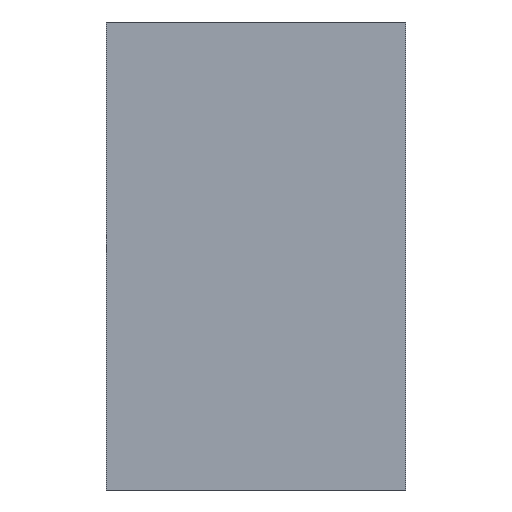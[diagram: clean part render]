
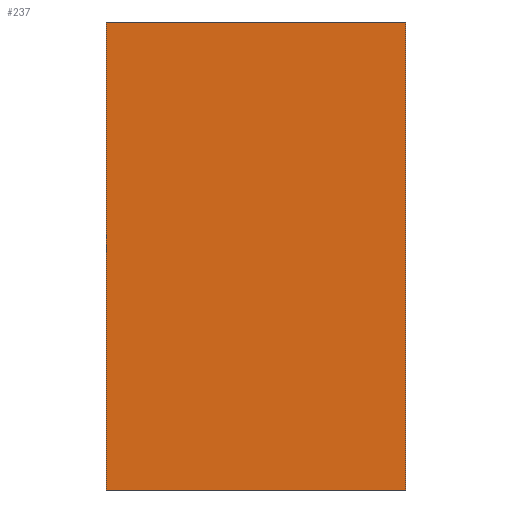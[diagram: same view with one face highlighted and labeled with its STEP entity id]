
A CAD part, front view. The second image highlights one B-rep face of the part: STEP entity #237.
In plain terms, the highlighted planar face has unit normal (0, -1, 0).
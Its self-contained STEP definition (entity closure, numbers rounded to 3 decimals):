
#21 = EDGE_CURVE('',#22,#24,#26,.T.);
#22 = VERTEX_POINT('',#23);
#23 = CARTESIAN_POINT('',(15.,4.,18.));
#24 = VERTEX_POINT('',#25);
#25 = CARTESIAN_POINT('',(15.,4.,68.));
#26 = SURFACE_CURVE('',#27,(#31,#43),.PCURVE_S1.);
#27 = LINE('',#28,#29);
#28 = CARTESIAN_POINT('',(15.,4.,18.));
#29 = VECTOR('',#30,1.);
#30 = DIRECTION('',(0.,0.,1.));
#31 = PCURVE('',#32,#37);
#32 = PLANE('',#33);
#33 = AXIS2_PLACEMENT_3D('',#34,#35,#36);
#34 = CARTESIAN_POINT('',(15.,4.,18.));
#35 = DIRECTION('',(1.,0.,0.));
#36 = DIRECTION('',(0.,0.,1.));
#37 = DEFINITIONAL_REPRESENTATION('',(#38),#42);
#38 = LINE('',#39,#40);
#39 = CARTESIAN_POINT('',(0.,0.));
#40 = VECTOR('',#41,1.);
#41 = DIRECTION('',(1.,0.));
#42 = ( GEOMETRIC_REPRESENTATION_CONTEXT(2) 
PARAMETRIC_REPRESENTATION_CONTEXT() REPRESENTATION_CONTEXT('2D SPACE',''
  ) );
#43 = PCURVE('',#44,#49);
#44 = PLANE('',#45);
#45 = AXIS2_PLACEMENT_3D('',#46,#47,#48);
#46 = CARTESIAN_POINT('',(15.,4.,18.));
#47 = DIRECTION('',(0.,1.,0.));
#48 = DIRECTION('',(0.,0.,1.));
#49 = DEFINITIONAL_REPRESENTATION('',(#50),#54);
#50 = LINE('',#51,#52);
#51 = CARTESIAN_POINT('',(0.,0.));
#52 = VECTOR('',#53,1.);
#53 = DIRECTION('',(1.,0.));
#54 = ( GEOMETRIC_REPRESENTATION_CONTEXT(2) 
PARAMETRIC_REPRESENTATION_CONTEXT() REPRESENTATION_CONTEXT('2D SPACE',''
  ) );
#72 = PLANE('',#73);
#73 = AXIS2_PLACEMENT_3D('',#74,#75,#76);
#74 = CARTESIAN_POINT('',(15.,4.,18.));
#75 = DIRECTION('',(0.,0.,1.));
#76 = DIRECTION('',(1.,0.,0.));
#126 = PLANE('',#127);
#127 = AXIS2_PLACEMENT_3D('',#128,#129,#130);
#128 = CARTESIAN_POINT('',(15.,4.,68.));
#129 = DIRECTION('',(0.,0.,1.));
#130 = DIRECTION('',(1.,0.,0.));
#141 = EDGE_CURVE('',#142,#144,#146,.T.);
#142 = VERTEX_POINT('',#143);
#143 = CARTESIAN_POINT('',(47.,4.,18.));
#144 = VERTEX_POINT('',#145);
#145 = CARTESIAN_POINT('',(47.,4.,68.));
#146 = SURFACE_CURVE('',#147,(#151,#163),.PCURVE_S1.);
#147 = LINE('',#148,#149);
#148 = CARTESIAN_POINT('',(47.,4.,18.));
#149 = VECTOR('',#150,1.);
#150 = DIRECTION('',(0.,0.,1.));
#151 = PCURVE('',#152,#157);
#152 = PLANE('',#153);
#153 = AXIS2_PLACEMENT_3D('',#154,#155,#156);
#154 = CARTESIAN_POINT('',(47.,4.,18.));
#155 = DIRECTION('',(1.,0.,0.));
#156 = DIRECTION('',(0.,0.,1.));
#157 = DEFINITIONAL_REPRESENTATION('',(#158),#162);
#158 = LINE('',#159,#160);
#159 = CARTESIAN_POINT('',(0.,0.));
#160 = VECTOR('',#161,1.);
#161 = DIRECTION('',(1.,0.));
#162 = ( GEOMETRIC_REPRESENTATION_CONTEXT(2) 
PARAMETRIC_REPRESENTATION_CONTEXT() REPRESENTATION_CONTEXT('2D SPACE',''
  ) );
#163 = PCURVE('',#44,#164);
#164 = DEFINITIONAL_REPRESENTATION('',(#165),#169);
#165 = LINE('',#166,#167);
#166 = CARTESIAN_POINT('',(0.,32.));
#167 = VECTOR('',#168,1.);
#168 = DIRECTION('',(1.,0.));
#169 = ( GEOMETRIC_REPRESENTATION_CONTEXT(2) 
PARAMETRIC_REPRESENTATION_CONTEXT() REPRESENTATION_CONTEXT('2D SPACE',''
  ) );
#237 = ADVANCED_FACE('',(#238),#44,.F.);
#238 = FACE_BOUND('',#239,.F.);
#239 = EDGE_LOOP('',(#240,#261,#262,#283));
#240 = ORIENTED_EDGE('',*,*,#241,.F.);
#241 = EDGE_CURVE('',#22,#142,#242,.T.);
#242 = SURFACE_CURVE('',#243,(#247,#254),.PCURVE_S1.);
#243 = LINE('',#244,#245);
#244 = CARTESIAN_POINT('',(15.,4.,18.));
#245 = VECTOR('',#246,1.);
#246 = DIRECTION('',(1.,0.,0.));
#247 = PCURVE('',#44,#248);
#248 = DEFINITIONAL_REPRESENTATION('',(#249),#253);
#249 = LINE('',#250,#251);
#250 = CARTESIAN_POINT('',(0.,0.));
#251 = VECTOR('',#252,1.);
#252 = DIRECTION('',(0.,1.));
#253 = ( GEOMETRIC_REPRESENTATION_CONTEXT(2) 
PARAMETRIC_REPRESENTATION_CONTEXT() REPRESENTATION_CONTEXT('2D SPACE',''
  ) );
#254 = PCURVE('',#72,#255);
#255 = DEFINITIONAL_REPRESENTATION('',(#256),#260);
#256 = LINE('',#257,#258);
#257 = CARTESIAN_POINT('',(0.,0.));
#258 = VECTOR('',#259,1.);
#259 = DIRECTION('',(1.,0.));
#260 = ( GEOMETRIC_REPRESENTATION_CONTEXT(2) 
PARAMETRIC_REPRESENTATION_CONTEXT() REPRESENTATION_CONTEXT('2D SPACE',''
  ) );
#261 = ORIENTED_EDGE('',*,*,#21,.T.);
#262 = ORIENTED_EDGE('',*,*,#263,.T.);
#263 = EDGE_CURVE('',#24,#144,#264,.T.);
#264 = SURFACE_CURVE('',#265,(#269,#276),.PCURVE_S1.);
#265 = LINE('',#266,#267);
#266 = CARTESIAN_POINT('',(15.,4.,68.));
#267 = VECTOR('',#268,1.);
#268 = DIRECTION('',(1.,0.,0.));
#269 = PCURVE('',#44,#270);
#270 = DEFINITIONAL_REPRESENTATION('',(#271),#275);
#271 = LINE('',#272,#273);
#272 = CARTESIAN_POINT('',(50.,0.));
#273 = VECTOR('',#274,1.);
#274 = DIRECTION('',(0.,1.));
#275 = ( GEOMETRIC_REPRESENTATION_CONTEXT(2) 
PARAMETRIC_REPRESENTATION_CONTEXT() REPRESENTATION_CONTEXT('2D SPACE',''
  ) );
#276 = PCURVE('',#126,#277);
#277 = DEFINITIONAL_REPRESENTATION('',(#278),#282);
#278 = LINE('',#279,#280);
#279 = CARTESIAN_POINT('',(0.,0.));
#280 = VECTOR('',#281,1.);
#281 = DIRECTION('',(1.,0.));
#282 = ( GEOMETRIC_REPRESENTATION_CONTEXT(2) 
PARAMETRIC_REPRESENTATION_CONTEXT() REPRESENTATION_CONTEXT('2D SPACE',''
  ) );
#283 = ORIENTED_EDGE('',*,*,#141,.F.);
